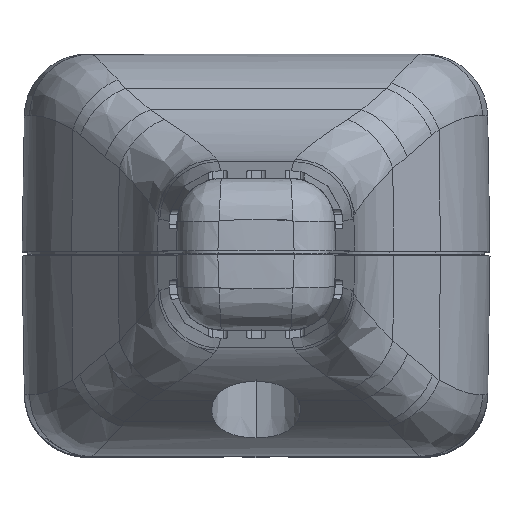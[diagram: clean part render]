
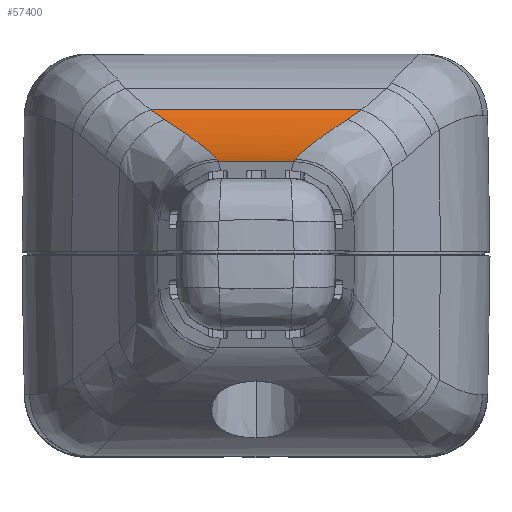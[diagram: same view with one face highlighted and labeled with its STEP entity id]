
A CAD part, top view. The second image highlights one B-rep face of the part: STEP entity #57400.
In plain terms, the highlighted cylindrical face has radius 20 mm (diameter 40 mm), a partial arc.
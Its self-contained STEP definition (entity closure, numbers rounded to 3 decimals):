
#1284 = CARTESIAN_POINT ( 'NONE',  ( -3.933, 7.659, 75.218 ) ) ;
#1353 = CARTESIAN_POINT ( 'NONE',  ( 0., 26.314, 82.427 ) ) ;
#1569 = B_SPLINE_CURVE_WITH_KNOTS ( 'NONE', 3,
 ( #38769, #66894, #11165, #2693, #3159, #60321, #82374, #68295, #18156, #4088, #91660, #69669, #63086, #63539, #34527, #27481 ),
 .UNSPECIFIED., .F., .F.,
 ( 4, 2, 2, 1, 1, 1, 1, 2, 2, 4 ),
 ( 0., 0.25, 0.375, 0.437, 0.469, 0.484, 0.492, 0.496, 0.5, 1. ),
 .UNSPECIFIED. ) ;
#2674 = CARTESIAN_POINT ( 'NONE',  ( -3.872, 7.612, 75.34 ) ) ;
#2693 = CARTESIAN_POINT ( 'NONE',  ( 3.177, 7.043, 77.064 ) ) ;
#3159 = CARTESIAN_POINT ( 'NONE',  ( 3.291, 7.143, 76.717 ) ) ;
#3426 = ORIENTED_EDGE ( 'NONE', *, *, #67397, .T. ) ;
#4088 = CARTESIAN_POINT ( 'NONE',  ( 3.83, 7.579, 75.427 ) ) ;
#7884 = CARTESIAN_POINT ( 'NONE',  ( -4.714, 8.234, 73.871 ) ) ;
#9264 = CARTESIAN_POINT ( 'NONE',  ( -2.818, 6.732, 78.106 ) ) ;
#9557 = ORIENTED_EDGE ( 'NONE', *, *, #62161, .T. ) ;
#9651 = EDGE_LOOP ( 'NONE', ( #46065, #3426, #82684, #10620, #9557, #15112, #65679, #28910 ) ) ;
#10620 = ORIENTED_EDGE ( 'NONE', *, *, #15135, .T. ) ;
#10822 = CARTESIAN_POINT ( 'NONE',  ( -7.239, 9.929, 70.958 ) ) ;
#11165 = CARTESIAN_POINT ( 'NONE',  ( 2.886, 6.771, 78.113 ) ) ;
#11298 = CARTESIAN_POINT ( 'NONE',  ( -6.264, 9.266, 71.969 ) ) ;
#11444 = CARTESIAN_POINT ( 'NONE',  ( -2.66, 6.451, 80.038 ) ) ;
#11764 = CARTESIAN_POINT ( 'NONE',  ( -6.6, 9.48, 71.62 ) ) ;
#14718 = B_SPLINE_CURVE_WITH_KNOTS ( 'NONE', 3,
 ( #81418, #45289, #17209, #23775 ),
 .UNSPECIFIED., .F., .F.,
 ( 4, 4 ),
 ( 0., 1. ),
 .UNSPECIFIED. ) ;
#15112 = ORIENTED_EDGE ( 'NONE', *, *, #29486, .T. ) ;
#15135 = EDGE_CURVE ( 'NONE', #80106, #71339, #86791, .T. ) ;
#15732 = VERTEX_POINT ( 'NONE', #26461 ) ;
#16292 = CARTESIAN_POINT ( 'NONE',  ( -2.7, 6.523, 79.545 ) ) ;
#17209 = CARTESIAN_POINT ( 'NONE',  ( 6.924, 9.701, 71.285 ) ) ;
#18156 = CARTESIAN_POINT ( 'NONE',  ( 3.794, 7.552, 75.501 ) ) ;
#18729 = CARTESIAN_POINT ( 'NONE',  ( 25., 9.929, 70.958 ) ) ;
#18938 = CARTESIAN_POINT ( 'NONE',  ( 2.701, 6.523, 79.542 ) ) ;
#21415 = VERTEX_POINT ( 'NONE', #56043 ) ;
#23336 = CARTESIAN_POINT ( 'NONE',  ( 2.62, 6.398, 80.533 ) ) ;
#23775 = CARTESIAN_POINT ( 'NONE',  ( 7.239, 9.929, 70.958 ) ) ;
#23776 = CARTESIAN_POINT ( 'NONE',  ( -4.139, 7.815, 74.822 ) ) ;
#24099 = EDGE_CURVE ( 'NONE', #80106, #27205, #56891, .T. ) ;
#26461 = CARTESIAN_POINT ( 'NONE',  ( 6.259, 9.263, 71.974 ) ) ;
#26790 = B_SPLINE_CURVE_WITH_KNOTS ( 'NONE', 3,
 ( #10822, #67489, #11764, #11298 ),
 .UNSPECIFIED., .F., .F.,
 ( 4, 4 ),
 ( 0., 1. ),
 .UNSPECIFIED. ) ;
#27205 = VERTEX_POINT ( 'NONE', #36550 ) ;
#27481 = CARTESIAN_POINT ( 'NONE',  ( 6.259, 9.263, 71.974 ) ) ;
#27864 = DIRECTION ( 'NONE',  ( -1., 0., 0. ) ) ;
#28910 = ORIENTED_EDGE ( 'NONE', *, *, #33240, .T. ) ;
#29486 = EDGE_CURVE ( 'NONE', #15732, #77663, #14718, .T. ) ;
#33240 = EDGE_CURVE ( 'NONE', #50896, #21415, #26790, .T. ) ;
#34527 = CARTESIAN_POINT ( 'NONE',  ( 5.26, 8.631, 73.005 ) ) ;
#36447 = CARTESIAN_POINT ( 'NONE',  ( -3.876, 7.615, 75.332 ) ) ;
#36550 = CARTESIAN_POINT ( 'NONE',  ( -2.579, 6.363, 81.031 ) ) ;
#36905 = CARTESIAN_POINT ( 'NONE',  ( -4.265, 7.909, 74.599 ) ) ;
#38769 = CARTESIAN_POINT ( 'NONE',  ( 2.701, 6.523, 79.542 ) ) ;
#40125 = B_SPLINE_CURVE_WITH_KNOTS ( 'NONE', 3,
 ( #83113, #11444, #74683, #53565 ),
 .UNSPECIFIED., .F., .F.,
 ( 4, 4 ),
 ( 0., 1. ),
 .UNSPECIFIED. ) ;
#43977 = FACE_OUTER_BOUND ( 'NONE', #9651, .T. ) ;
#44433 = CYLINDRICAL_SURFACE ( 'NONE', #79153, 20. ) ;
#45289 = CARTESIAN_POINT ( 'NONE',  ( 6.597, 9.478, 71.624 ) ) ;
#45427 = LINE ( 'NONE', #18729, #67433 ) ;
#46065 = ORIENTED_EDGE ( 'NONE', *, *, #76067, .T. ) ;
#49109 = B_SPLINE_CURVE_WITH_KNOTS ( 'NONE', 3,
 ( #87047, #79102, #80013, #7884, #87513, #36905, #23776, #65486, #1284, #51855, #72063, #36447, #2674, #65032, #9264, #16292 ),
 .UNSPECIFIED., .F., .F.,
 ( 4, 2, 2, 1, 1, 1, 1, 2, 2, 4 ),
 ( 0., 0.25, 0.375, 0.437, 0.469, 0.484, 0.492, 0.496, 0.5, 1. ),
 .UNSPECIFIED. ) ;
#50896 = VERTEX_POINT ( 'NONE', #67592 ) ;
#51855 = CARTESIAN_POINT ( 'NONE',  ( -3.9, 7.633, 75.284 ) ) ;
#53565 = CARTESIAN_POINT ( 'NONE',  ( -2.579, 6.363, 81.031 ) ) ;
#56043 = CARTESIAN_POINT ( 'NONE',  ( -6.264, 9.266, 71.969 ) ) ;
#56891 = LINE ( 'NONE', #78466, #84294 ) ;
#57400 = ADVANCED_FACE ( 'NONE', ( #43977 ), #44433, .F. ) ;
#57947 = VERTEX_POINT ( 'NONE', #76527 ) ;
#60321 = CARTESIAN_POINT ( 'NONE',  ( 3.487, 7.307, 76.202 ) ) ;
#62161 = EDGE_CURVE ( 'NONE', #71339, #15732, #1569, .T. ) ;
#63086 = CARTESIAN_POINT ( 'NONE',  ( 3.861, 7.603, 75.363 ) ) ;
#63539 = CARTESIAN_POINT ( 'NONE',  ( 4.462, 8.068, 74.134 ) ) ;
#64581 = CARTESIAN_POINT ( 'NONE',  ( 2.701, 6.523, 79.542 ) ) ;
#65032 = CARTESIAN_POINT ( 'NONE',  ( -3.207, 7.098, 76.697 ) ) ;
#65486 = CARTESIAN_POINT ( 'NONE',  ( -4., 7.71, 75.085 ) ) ;
#65679 = ORIENTED_EDGE ( 'NONE', *, *, #91300, .T. ) ;
#66894 = CARTESIAN_POINT ( 'NONE',  ( 2.759, 6.628, 78.824 ) ) ;
#67397 = EDGE_CURVE ( 'NONE', #57947, #27205, #40125, .T. ) ;
#67433 = VECTOR ( 'NONE', #74515, 1000. ) ;
#67489 = CARTESIAN_POINT ( 'NONE',  ( -6.925, 9.702, 71.283 ) ) ;
#67592 = CARTESIAN_POINT ( 'NONE',  ( -7.239, 9.929, 70.958 ) ) ;
#68295 = CARTESIAN_POINT ( 'NONE',  ( 3.725, 7.498, 75.648 ) ) ;
#68347 = CARTESIAN_POINT ( 'NONE',  ( 7.239, 9.929, 70.958 ) ) ;
#69669 = CARTESIAN_POINT ( 'NONE',  ( 3.855, 7.599, 75.374 ) ) ;
#71339 = VERTEX_POINT ( 'NONE', #18938 ) ;
#71639 = CARTESIAN_POINT ( 'NONE',  ( 2.579, 6.363, 81.031 ) ) ;
#72063 = CARTESIAN_POINT ( 'NONE',  ( -3.885, 7.622, 75.313 ) ) ;
#72582 = DIRECTION ( 'NONE',  ( 0., 0., -1. ) ) ;
#74515 = DIRECTION ( 'NONE',  ( -1., 0., 0. ) ) ;
#74683 = CARTESIAN_POINT ( 'NONE',  ( -2.619, 6.398, 80.534 ) ) ;
#76067 = EDGE_CURVE ( 'NONE', #21415, #57947, #49109, .T. ) ;
#76527 = CARTESIAN_POINT ( 'NONE',  ( -2.7, 6.523, 79.545 ) ) ;
#77663 = VERTEX_POINT ( 'NONE', #68347 ) ;
#78466 = CARTESIAN_POINT ( 'NONE',  ( 25., 6.363, 81.031 ) ) ;
#79102 = CARTESIAN_POINT ( 'NONE',  ( -5.763, 8.95, 72.485 ) ) ;
#79153 = AXIS2_PLACEMENT_3D ( 'NONE', #1353, #80079, #72582 ) ;
#80013 = CARTESIAN_POINT ( 'NONE',  ( -5.314, 8.651, 73.025 ) ) ;
#80079 = DIRECTION ( 'NONE',  ( 1., 0., 0. ) ) ;
#80106 = VERTEX_POINT ( 'NONE', #71639 ) ;
#80500 = CARTESIAN_POINT ( 'NONE',  ( 2.66, 6.451, 80.036 ) ) ;
#81418 = CARTESIAN_POINT ( 'NONE',  ( 6.259, 9.263, 71.974 ) ) ;
#82374 = CARTESIAN_POINT ( 'NONE',  ( 3.592, 7.392, 75.945 ) ) ;
#82684 = ORIENTED_EDGE ( 'NONE', *, *, #24099, .F. ) ;
#83113 = CARTESIAN_POINT ( 'NONE',  ( -2.7, 6.523, 79.545 ) ) ;
#84294 = VECTOR ( 'NONE', #27864, 1000. ) ;
#86791 = B_SPLINE_CURVE_WITH_KNOTS ( 'NONE', 3,
 ( #87533, #23336, #80500, #64581 ),
 .UNSPECIFIED., .F., .F.,
 ( 4, 4 ),
 ( 0., 1. ),
 .UNSPECIFIED. ) ;
#87047 = CARTESIAN_POINT ( 'NONE',  ( -6.264, 9.266, 71.969 ) ) ;
#87513 = CARTESIAN_POINT ( 'NONE',  ( -4.527, 8.1, 74.159 ) ) ;
#87533 = CARTESIAN_POINT ( 'NONE',  ( 2.579, 6.363, 81.031 ) ) ;
#91300 = EDGE_CURVE ( 'NONE', #77663, #50896, #45427, .T. ) ;
#91660 = CARTESIAN_POINT ( 'NONE',  ( 3.845, 7.591, 75.395 ) ) ;
